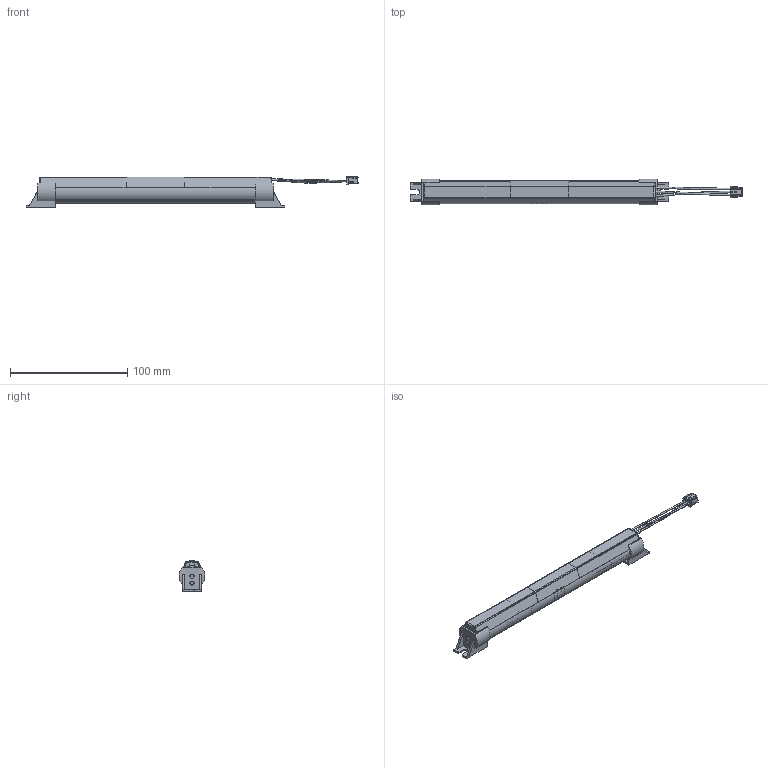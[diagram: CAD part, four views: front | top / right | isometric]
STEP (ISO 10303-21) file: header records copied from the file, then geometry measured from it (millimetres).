
FILE_DESCRIPTION((''),'2;1');
FILE_NAME('15012923Z_DMEC_28002320_PO4-3A','2018-11-08T11:16:15',('juergen.hrach'),(''),'CREO PARAMETRIC BY PTC INC, 2017380','CREO PARAMETRIC BY PTC INC, 2017380','');
FILE_SCHEMA(('AUTOMOTIVE_DESIGN { 1 0 10303 214 1 1 1 1 }'));
Length unit declared in the file: millimetre
Products named in the file (1): 15012923Z_DMEC_28002320_PO4-3A
Bounding box: 282.63 x 21.93 x 26.15 mm (x, y, z)
Volume: 61147.4 mm3; surface area: 73301.7 mm2
Topology: 7 solids, 11 shells, 750 faces, 2138 edges, 1366 vertices
Faces by surface type: plane 461, cylinder 193, torus 40, bspline 40, cone 8, sphere 8
Entity records: 30805 total; most frequent: CARTESIAN_POINT 8096, ORIENTED_EDGE 4242, DIRECTION 3777, EDGE_CURVE 2130, VERTEX_POINT 1366, VECTOR 1345, LINE 1345, AXIS2_PLACEMENT_3D 1216
